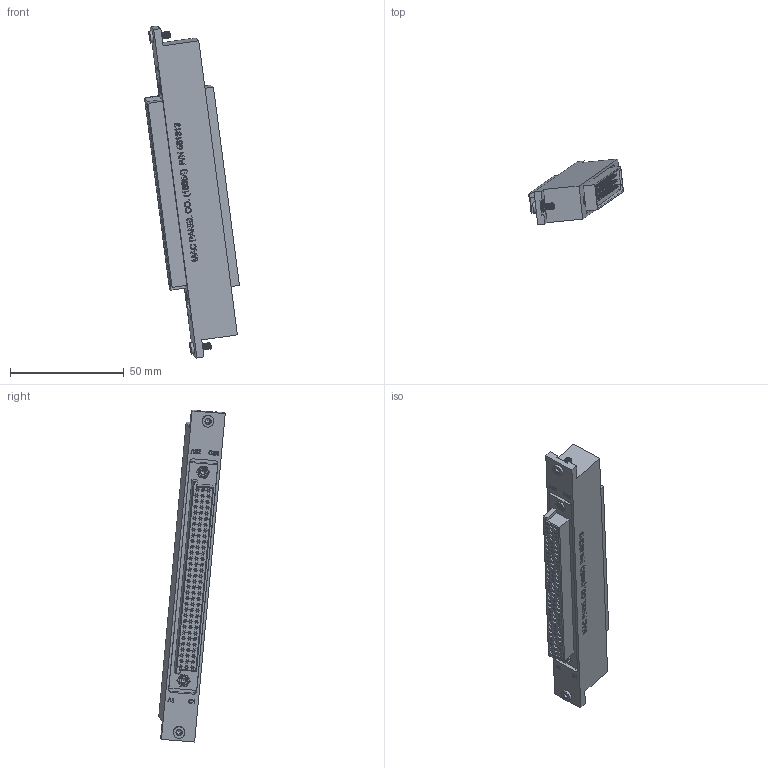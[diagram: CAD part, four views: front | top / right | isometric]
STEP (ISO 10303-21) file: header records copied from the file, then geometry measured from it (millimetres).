
FILE_DESCRIPTION((''),'2;1');
FILE_NAME('C:\old_Drawings\shrinkwrapped website .stp files\561313-STP.stp','2011-05-20T09:15:40',('GaryRobinson'),(''),'Autodesk Inventor 2011','Autodesk Inventor 2011','');
FILE_SCHEMA(('CONFIG_CONTROL_DESIGN'));
Length unit declared in the file: inch
Products named in the file (1): 561313-STP
Bounding box: 41.71 x 29.19 x 145.78 mm (x, y, z)
Surface area: 30180.7 mm2 (no closed solid volume)
Topology: 0 solids, 17 shells, 2933 faces, 7858 edges, 5217 vertices
Faces by surface type: plane 2403, bspline 231, cylinder 181, cone 118
Full cylindrical faces by diameter (mm): 0.005 x4, 0.025 x6, 0.127 x1, 0.508 x4, 1.016 x96, 2.184 x4, 2.381 x2, 2.54 x2, 2.845 x12, 3.429 x2, 3.505 x2, 3.556 x2, 3.962 x4, 4.064 x2, 5.08 x2
Entity records: 95466 total; most frequent: CARTESIAN_POINT 22385, ORIENTED_EDGE 14712, DIRECTION 12612, EDGE_CURVE 7356, VECTOR 6458, LINE 6458, VERTEX_POINT 4980, EDGE_LOOP 3826
